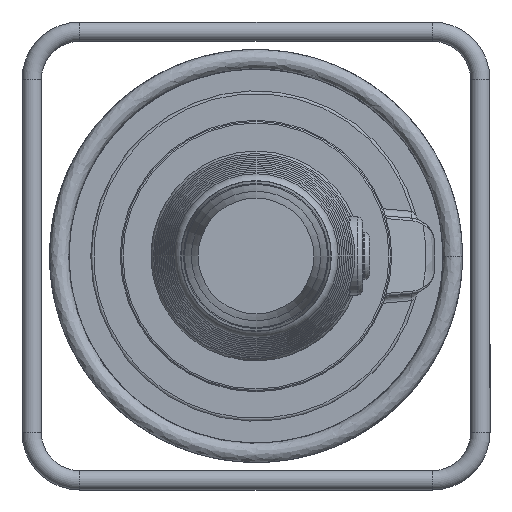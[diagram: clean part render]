
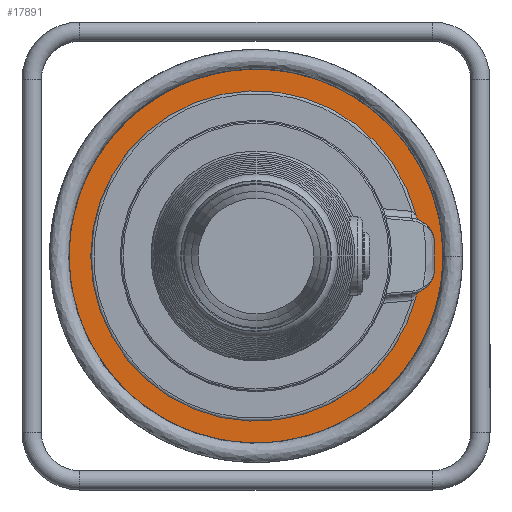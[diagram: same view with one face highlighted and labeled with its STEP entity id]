
A CAD part, left-side view. The second image highlights one B-rep face of the part: STEP entity #17891.
In plain terms, the highlighted planar face has unit normal (-1, 0, 0).
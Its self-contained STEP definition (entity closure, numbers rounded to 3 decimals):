
#134=FACE_BOUND('',#5782,.T.);
#846=PLANE('',#19149);
#4702=FACE_OUTER_BOUND('',#5781,.T.);
#5781=EDGE_LOOP('',(#15970));
#5782=EDGE_LOOP('',(#15971,#15972,#15973,#15974,#15975,#15976,#15977,#15978));
#6286=CIRCLE('',#18791,5.);
#6306=CIRCLE('',#18817,5.);
#6309=CIRCLE('',#18823,120.);
#6317=CIRCLE('',#18835,2.);
#6326=CIRCLE('',#18852,130.);
#6332=CIRCLE('',#18861,2.);
#6356=CIRCLE('',#18898,19.);
#6357=CIRCLE('',#18902,19.);
#6524=CIRCLE('',#19150,143.);
#8091=VERTEX_POINT('',#43085);
#8092=VERTEX_POINT('',#43087);
#8111=VERTEX_POINT('',#43259);
#8112=VERTEX_POINT('',#43260);
#8119=VERTEX_POINT('',#43288);
#8120=VERTEX_POINT('',#43289);
#8144=VERTEX_POINT('',#43697);
#8151=VERTEX_POINT('',#43883);
#8297=VERTEX_POINT('',#45172);
#10525=EDGE_CURVE('',#8092,#8091,#6286,.T.);
#10554=EDGE_CURVE('',#8111,#8112,#6306,.T.);
#10559=EDGE_CURVE('',#8112,#8092,#6309,.T.);
#10568=EDGE_CURVE('',#8119,#8120,#6317,.T.);
#10602=EDGE_CURVE('',#8144,#8119,#6326,.T.);
#10615=EDGE_CURVE('',#8151,#8144,#6332,.T.);
#10662=EDGE_CURVE('',#8091,#8151,#6356,.T.);
#10665=EDGE_CURVE('',#8120,#8111,#6357,.T.);
#10874=EDGE_CURVE('',#8297,#8297,#6524,.T.);
#15970=ORIENTED_EDGE('',*,*,#10874,.F.);
#15971=ORIENTED_EDGE('',*,*,#10568,.T.);
#15972=ORIENTED_EDGE('',*,*,#10665,.T.);
#15973=ORIENTED_EDGE('',*,*,#10554,.T.);
#15974=ORIENTED_EDGE('',*,*,#10559,.T.);
#15975=ORIENTED_EDGE('',*,*,#10525,.T.);
#15976=ORIENTED_EDGE('',*,*,#10662,.T.);
#15977=ORIENTED_EDGE('',*,*,#10615,.T.);
#15978=ORIENTED_EDGE('',*,*,#10602,.T.);
#17891=ADVANCED_FACE('',(#4702,#134),#846,.F.);
#18791=AXIS2_PLACEMENT_3D('',#43088,#21841,#21842);
#18817=AXIS2_PLACEMENT_3D('',#43261,#21898,#21899);
#18823=AXIS2_PLACEMENT_3D('',#43269,#21912,#21913);
#18835=AXIS2_PLACEMENT_3D('',#43290,#21937,#21938);
#18852=AXIS2_PLACEMENT_3D('',#43698,#21976,#21977);
#18861=AXIS2_PLACEMENT_3D('',#43884,#21996,#21997);
#18898=AXIS2_PLACEMENT_3D('',#44244,#22077,#22078);
#18902=AXIS2_PLACEMENT_3D('',#44250,#22087,#22088);
#19149=AXIS2_PLACEMENT_3D('',#45171,#22599,#22600);
#19150=AXIS2_PLACEMENT_3D('',#45173,#22601,#22602);
#21841=DIRECTION('center_axis',(-1.,0.,0.));
#21842=DIRECTION('ref_axis',(0.,0.773,-0.634));
#21898=DIRECTION('center_axis',(-1.,0.,0.));
#21899=DIRECTION('ref_axis',(0.,0.773,0.634));
#21912=DIRECTION('center_axis',(1.,0.,0.));
#21913=DIRECTION('ref_axis',(0.,1.,0.));
#21937=DIRECTION('center_axis',(1.,0.,0.));
#21938=DIRECTION('ref_axis',(0.,-0.981,-0.196));
#21976=DIRECTION('center_axis',(1.,0.,0.));
#21977=DIRECTION('ref_axis',(0.,-1.,0.));
#21996=DIRECTION('center_axis',(1.,0.,0.));
#21997=DIRECTION('ref_axis',(0.,-0.981,0.196));
#22077=DIRECTION('center_axis',(1.,0.,0.));
#22078=DIRECTION('ref_axis',(0.,-0.737,0.676));
#22087=DIRECTION('center_axis',(1.,0.,0.));
#22088=DIRECTION('ref_axis',(0.,-0.737,-0.676));
#22599=DIRECTION('center_axis',(1.,0.,0.));
#22600=DIRECTION('ref_axis',(0.,0.,
-1.));
#22601=DIRECTION('center_axis',(1.,0.,0.));
#22602=DIRECTION('ref_axis',(0.,0.,
-1.));
#43085=CARTESIAN_POINT('',(-4.471,-46.429,25.759));
#43087=CARTESIAN_POINT('',(-4.471,-43.719,29.067));
#43088=CARTESIAN_POINT('Origin',(-4.471,-48.57,30.278));
#43259=CARTESIAN_POINT('',(-4.471,-46.429,-25.759));
#43260=CARTESIAN_POINT('',(-4.471,-43.719,-29.067));
#43261=CARTESIAN_POINT('Origin',(-4.471,-48.57,-30.278));
#43269=CARTESIAN_POINT('Origin',(-4.471,72.707,0.));
#43288=CARTESIAN_POINT('',(-4.471,-56.574,-13.655));
#43289=CARTESIAN_POINT('',(-4.471,-56.501,-14.016));
#43290=CARTESIAN_POINT('Origin',(-4.471,-54.585,-13.445));
#43697=CARTESIAN_POINT('',(-4.471,-56.574,13.655));
#43698=CARTESIAN_POINT('Origin',(-4.471,72.707,0.));
#43883=CARTESIAN_POINT('',(-4.471,-56.501,14.016));
#43884=CARTESIAN_POINT('Origin',(-4.471,-54.585,13.445));
#44244=CARTESIAN_POINT('Origin',(-4.471,-38.293,8.59));
#44250=CARTESIAN_POINT('Origin',(-4.471,-38.293,-8.59));
#45171=CARTESIAN_POINT('Origin',(-4.471,72.707,0.));
#45172=CARTESIAN_POINT('',(-4.471,72.707,143.));
#45173=CARTESIAN_POINT('Origin',(-4.471,72.707,0.));
